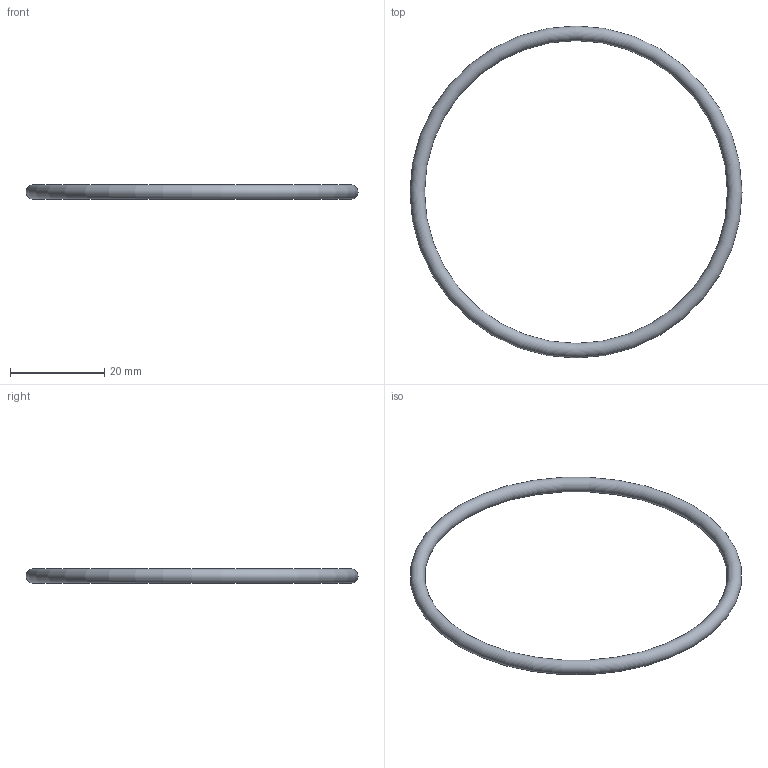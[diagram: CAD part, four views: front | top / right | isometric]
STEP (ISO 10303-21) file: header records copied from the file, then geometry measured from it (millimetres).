
FILE_DESCRIPTION(('Open CASCADE Model'),'2;1');
FILE_NAME('Open CASCADE Shape Model','2026-07-17T20:14:26',('Author'),( 'Open CASCADE'),'Open CASCADE STEP processor 7.7','Open CASCADE 7.7' ,'Unknown');
FILE_SCHEMA(('AUTOMOTIVE_DESIGN { 1 0 10303 214 1 1 1 1 }'));
Length unit declared in the file: millimetre
Products named in the file (1): Open CASCADE STEP translator 7.7 5
Bounding box: 70.6 x 70.6 x 3.1 mm (x, y, z)
Volume: 1600.5 mm3; surface area: 2065.2 mm2
Topology: 1 solids, 1 shells, 1 faces, 2 edges, 1 vertices
Faces by surface type: torus 1
Entity records: 70 total; most frequent: DIRECTION 12, CARTESIAN_POINT 9, AXIS2_PLACEMENT_3D 4, ORIENTED_EDGE 4, PCURVE 4, DEFINITIONAL_REPRESENTATION 4, LINE 4, VECTOR 4
